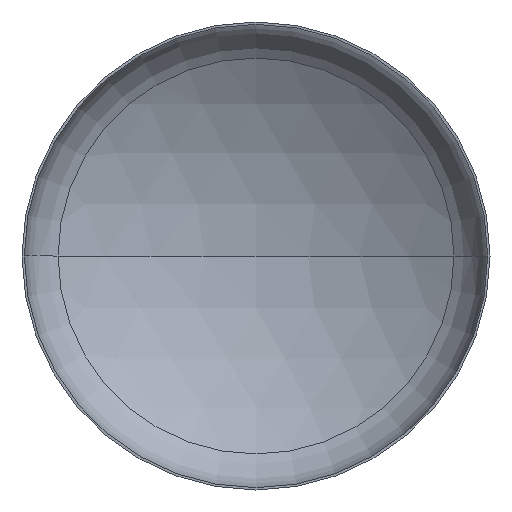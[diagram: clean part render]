
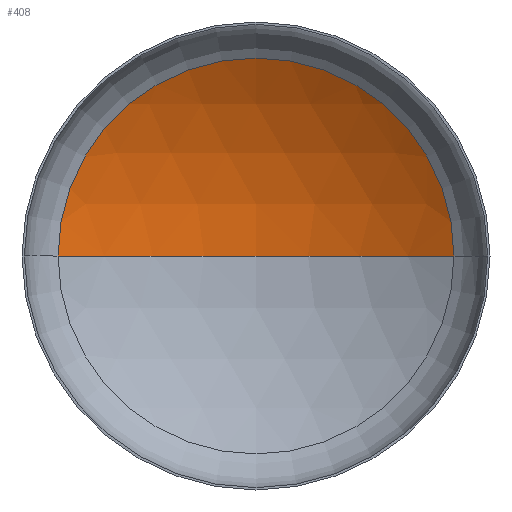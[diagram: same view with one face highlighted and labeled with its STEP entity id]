
A CAD part, front view. The second image highlights one B-rep face of the part: STEP entity #408.
In plain terms, the highlighted spherical face has radius 1440 mm.
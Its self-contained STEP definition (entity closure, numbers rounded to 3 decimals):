
#1 = AXIS2_PLACEMENT_3D ( 'NONE', #141, #58, #353 ) ;
#2 = CARTESIAN_POINT ( 'NONE',  ( -761.408, 263.413, 0. ) ) ;
#3 = AXIS2_PLACEMENT_3D ( 'NONE', #176, #380, #115 ) ;
#32 = AXIS2_PLACEMENT_3D ( 'NONE', #158, #163, #304 ) ;
#43 = ORIENTED_EDGE ( 'NONE', *, *, #330, .F. ) ;
#44 = CIRCLE ( 'NONE', #1, 1440. ) ;
#58 = DIRECTION ( 'NONE',  ( 0., 0., 1. ) ) ;
#86 = EDGE_CURVE ( 'NONE', #255, #125, #245, .T. ) ;
#87 = VERTEX_POINT ( 'NONE', #184 ) ;
#96 = DIRECTION ( 'NONE',  ( 0., 0., -1. ) ) ;
#115 = DIRECTION ( 'NONE',  ( -1., 0., 0. ) ) ;
#118 = FACE_OUTER_BOUND ( 'NONE', #221, .T. ) ;
#124 = DIRECTION ( 'NONE',  ( -1., 0., 0. ) ) ;
#125 = VERTEX_POINT ( 'NONE', #2 ) ;
#135 = CIRCLE ( 'NONE', #3, 1440. ) ;
#141 = CARTESIAN_POINT ( 'NONE',  ( 0., -958.822, 0. ) ) ;
#158 = CARTESIAN_POINT ( 'NONE',  ( 0., 263.413, 0. ) ) ;
#163 = DIRECTION ( 'NONE',  ( 0., -1., 0. ) ) ;
#176 = CARTESIAN_POINT ( 'NONE',  ( 0., -958.822, 0. ) ) ;
#184 = CARTESIAN_POINT ( 'NONE',  ( 0., 481.178, 0. ) ) ;
#202 = CARTESIAN_POINT ( 'NONE',  ( 761.408, 263.413, 0. ) ) ;
#221 = EDGE_LOOP ( 'NONE', ( #43, #313, #299 ) ) ;
#245 = CIRCLE ( 'NONE', #32, 761.408 ) ;
#255 = VERTEX_POINT ( 'NONE', #202 ) ;
#299 = ORIENTED_EDGE ( 'NONE', *, *, #86, .T. ) ;
#304 = DIRECTION ( 'NONE',  ( 1., 0., 0. ) ) ;
#310 = CARTESIAN_POINT ( 'NONE',  ( 0., -958.822, 0. ) ) ;
#313 = ORIENTED_EDGE ( 'NONE', *, *, #324, .T. ) ;
#324 = EDGE_CURVE ( 'NONE', #87, #255, #135, .T. ) ;
#330 = EDGE_CURVE ( 'NONE', #87, #125, #44, .T. ) ;
#340 = SPHERICAL_SURFACE ( 'NONE', #378, 1440. ) ;
#353 = DIRECTION ( 'NONE',  ( 1., 0., 0. ) ) ;
#378 = AXIS2_PLACEMENT_3D ( 'NONE', #310, #96, #124 ) ;
#380 = DIRECTION ( 'NONE',  ( 0., 0., -1. ) ) ;
#408 = ADVANCED_FACE ( 'NONE', ( #118 ), #340, .F. ) ;
